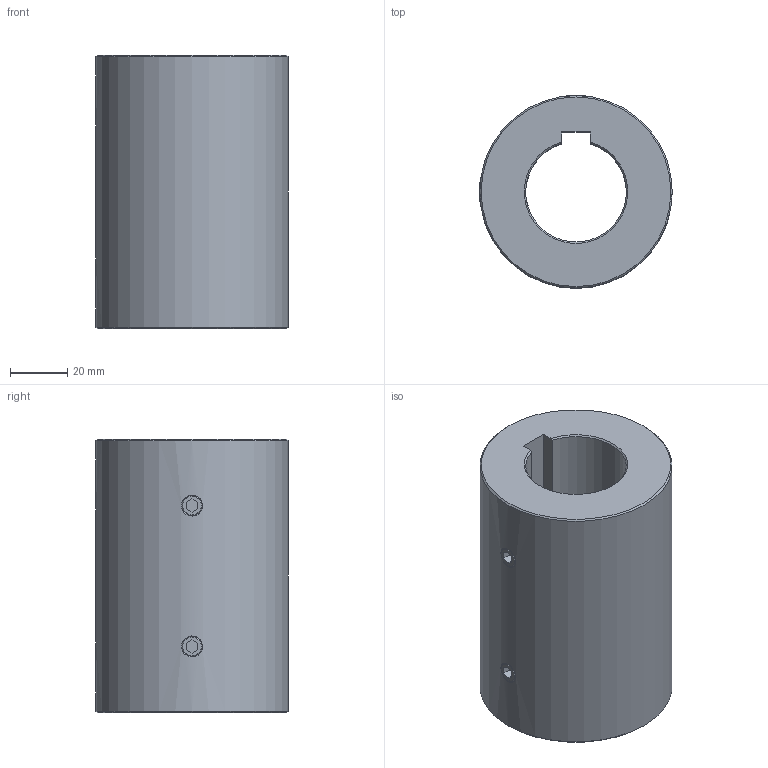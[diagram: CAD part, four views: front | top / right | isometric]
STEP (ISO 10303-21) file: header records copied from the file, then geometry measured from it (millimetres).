
FILE_DESCRIPTION (( 'STEP AP214' ), '1' );
FILE_NAME ('KBST1-VA-N35.STEP', '2025-07-29T07:35:23', ( '' ), ( '' ), 'SwSTEP 2.0', 'SolidWorks 2024', '' );
FILE_SCHEMA (( 'AUTOMOTIVE_DESIGN' ));
Length unit declared in the file: millimetre
Products named in the file (1): KBST1-VA-N35
Bounding box: 67 x 67 x 95 mm (x, y, z)
Volume: 236825.9 mm3; surface area: 38405.1 mm2
Topology: 5 solids, 5 shells, 83 faces, 191 edges, 114 vertices
Faces by surface type: plane 37, cone 28, cylinder 14, bspline 4
Full cylindrical faces by diameter (mm): 6.8 x4, 67 x1
Entity records: 8304 total; most frequent: CARTESIAN_POINT 5544, DIRECTION 358, ORIENTED_EDGE 340, EDGE_CURVE 170, AXIS2_PLACEMENT_3D 122, LINE 114, VECTOR 114, VERTEX_POINT 112
